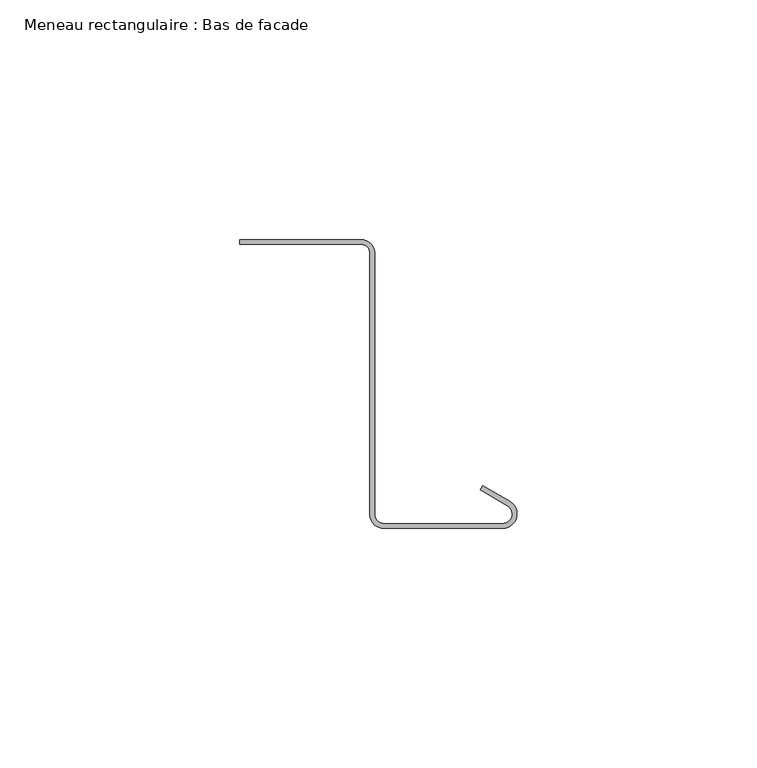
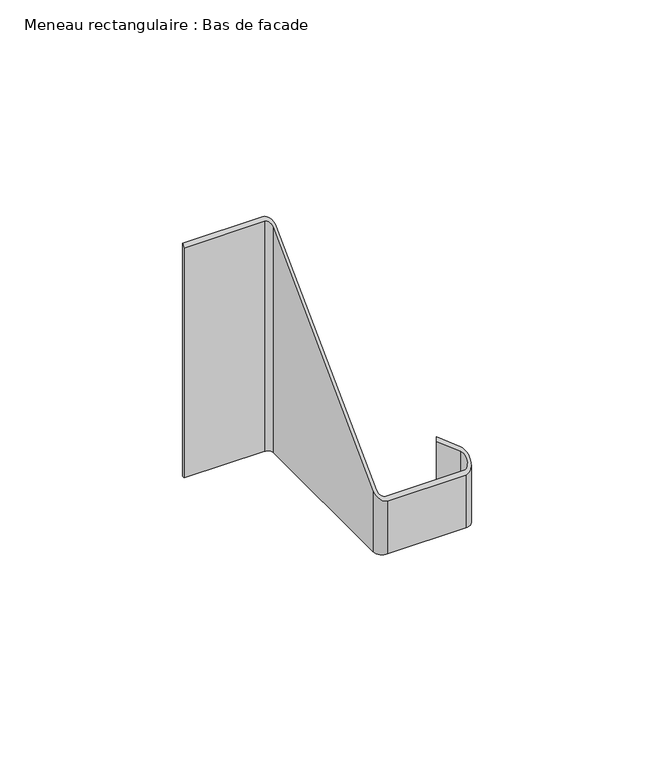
"""IFC4 building model written with IfcOpenShell, lengths in millimetres: member geometry, Meneau rectangulaire : Bas de facade."""

from ifc_helpers import new_model, si_unit, frame, origin, place, context, project, spatial, polyline, circle_curve, ellipse_curve, source, transform, mapped, element, save
from ifc_brep_helpers import plane_surface, cylinder_surface, revolved_surface, advanced_brep


def meneau_rectangulaire_bas_de_facade_97d3a993(model_context):
    return source(origin(), model_context, "Body", "AdvancedBrep", [
        advanced_brep(
        [(-32.4584179, 2.9588923, -74.86437), (-29.7143802, 0.3898824, -74.86437), (-29.7143802, -54.5495817, -74.86437), (-27.735368, -56.2605998, -74.86437), (-3.0, -56.2605998, -74.86437), (-2.0, -52.528549, -74.86437), (-7.6638061, -49.258549, -74.86437), (-7.1638061, -48.3925235, -74.86437), (-1.5, -51.6625235, -74.86437), (-3.0, -57.2605998, -74.86437), (-27.735368, -57.2605998, -74.86437), (-30.7239521, -54.522067, -74.86437), (-30.7239521, 0.4415475, -74.86437), (-32.4584179, 1.9588923, -74.86437), (-57.8548383, 1.9588923, -74.86437), (-57.8548383, 2.9588923, -74.86437), (-57.8548383, 2.9588923, 2.9588923), (-32.4584179, 2.9588923, 2.9588923), (-57.8548383, 1.9588923, 1.9588923), (-32.4584179, 1.9588923, 1.9588923), (-30.7239521, 0.4415475, 0.4415475), (-30.7239521, -54.522067, -54.522067), (-27.735368, -57.2605998, -57.2605998), (-3.0, -57.2605998, -57.2605998), (-1.5, -51.6625235, -51.6625235), (-7.1638061, -48.3925235, -48.3925235), (-7.6638061, -49.258549, -49.258549), (-2.0, -52.528549, -52.528549), (-3.0, -56.2605998, -56.2605998), (-27.735368, -56.2605998, -56.2605998), (-29.7143802, -54.5495817, -54.5495817), (-29.7143802, 0.3898824, 0.3898824)],
        [
            (0, 1, circle_curve(frame((-32.4584179, 0.2088923, -74.86437), z_axis=(0.0, 0.0, -1.0), x_axis=(0.0, 1.0, 0.0)), 2.75)),
            (1, 2),
            (2, 3, circle_curve(frame((-27.735368, -54.2605998, -74.86437), z_axis=(0.0, 0.0, 1.0), x_axis=(-0.9961946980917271, -0.08715574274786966, 0.0)), 2.0)),
            (3, 4),
            (4, 5, circle_curve(frame((-3.0, -54.2605998, -74.86437), z_axis=(0.0, 0.0, 1.0), x_axis=(0.0, -1.0, 0.0)), 2.0)),
            (5, 6),
            (6, 7),
            (7, 8),
            (8, 9, circle_curve(frame((-3.0, -54.2605998, -74.86437), z_axis=(0.0, 0.0, -1.0), x_axis=(0.0, -1.0, 0.0)), 3.0)),
            (9, 10),
            (10, 11, circle_curve(frame((-27.735368, -54.2605998, -74.86437), z_axis=(0.0, 0.0, -1.0), x_axis=(-0.9961946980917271, -0.08715574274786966, 0.0)), 3.0)),
            (11, 12),
            (12, 13, circle_curve(frame((-32.4584179, 0.2088923, -74.86437), z_axis=(0.0, 0.0, 1.0), x_axis=(0.0, 1.0, 0.0)), 1.75)),
            (13, 14),
            (14, 15),
            (15, 0),
            (16, 17),
            (17, 0),
            (15, 16),
            (18, 16),
            (14, 18),
            (19, 18),
            (13, 19),
            (20, 19, ellipse_curve(frame((-32.4584179, 0.2088923, 0.2088923), z_axis=(0.0, -0.7071067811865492, 0.7071067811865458), x_axis=(0.0, -0.7071067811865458, -0.7071067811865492)), 2.4748737, 1.75)),
            (12, 20),
            (21, 20),
            (11, 21),
            (22, 21, ellipse_curve(frame((-27.735368, -54.2605998, -54.2605998), z_axis=(0.0, 0.7071067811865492, -0.7071067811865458), x_axis=(0.0, 0.7071067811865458, 0.7071067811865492)), 4.2426407, 3.0)),
            (10, 22),
            (23, 22),
            (9, 23),
            (24, 23, ellipse_curve(frame((-3.0, -54.2605998, -54.2605998), z_axis=(0.0, 0.7071067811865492, -0.7071067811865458), x_axis=(0.0, 0.7071067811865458, 0.7071067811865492)), 4.2426407, 3.0)),
            (8, 24),
            (25, 24),
            (7, 25),
            (26, 25),
            (6, 26),
            (27, 26),
            (5, 27),
            (28, 27, ellipse_curve(frame((-3.0, -54.2605998, -54.2605998), z_axis=(0.0, -0.7071067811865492, 0.7071067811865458), x_axis=(0.0, -0.7071067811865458, -0.7071067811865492)), 2.8284271, 2.0)),
            (4, 28),
            (29, 28),
            (3, 29),
            (30, 29, ellipse_curve(frame((-27.735368, -54.2605998, -54.2605998), z_axis=(0.0, -0.7071067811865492, 0.7071067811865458), x_axis=(0.0, -0.7071067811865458, -0.7071067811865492)), 2.8284271, 2.0)),
            (2, 30),
            (31, 30),
            (1, 31),
            (17, 31, ellipse_curve(frame((-32.4584179, 0.2088923, 0.2088923), z_axis=(0.0, 0.7071067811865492, -0.7071067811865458), x_axis=(0.0, 0.7071067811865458, 0.7071067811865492)), 3.8890873, 2.75)),
        ],
        [
            plane_surface(frame((0.0, -63.8351035, -74.86437), z_axis=(0.0, 0.0, -1.0), x_axis=(-1.0, 0.0, 0.0))),
            plane_surface(frame((-32.4584179, 2.9588923, 0.0), z_axis=(0.0, 1.0, 0.0), x_axis=(0.0, 0.0, -1.0))),
            plane_surface(frame((-57.8548383, 2.9588923, 0.0), z_axis=(-1.0, 0.0, 0.0), x_axis=(0.0, 0.0, -1.0))),
            plane_surface(frame((-57.8548383, 1.9588923, 0.0), z_axis=(0.0, -1.0, 0.0), x_axis=(0.0, 0.0, -1.0))),
            revolved_surface(polyline([(-32.4584179, 1.9588923, -74.86437), (-32.4584179, 1.9588923, 1.9588923)]), (-32.4584179, 0.2088923, 0.0), (0.0, 0.0, -1.0)),
            plane_surface(frame((-30.7239521, 0.4415475, 0.0), z_axis=(-1.0, 0.0, 0.0), x_axis=(0.0, 0.0, -1.0))),
            cylinder_surface(frame((-27.735368, -54.2605998, 0.0), z_axis=(0.0, 0.0, 1.0000000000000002), x_axis=(-0.9961946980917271, -0.08715574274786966, 0.0)), 3.0),
            plane_surface(frame((-27.735368, -57.2605998, 0.0), z_axis=(0.0, -1.0, 0.0), x_axis=(0.0, 0.0, -1.0))),
            cylinder_surface(frame((-3.0, -54.2605998, 0.0), z_axis=(0.0, 0.0, 1.0), x_axis=(0.0, -1.0, 0.0)), 3.0),
            plane_surface(frame((-1.5, -51.6625235, 0.0), z_axis=(0.5000000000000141, 0.8660254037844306, 0.0), x_axis=(0.0, 0.0, -1.0))),
            plane_surface(frame((-7.1638061, -48.3925235, 0.0), z_axis=(-0.8660254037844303, 0.5000000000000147, 0.0), x_axis=(0.0, 0.0, -1.0))),
            plane_surface(frame((-7.6638061, -49.258549, 0.0), z_axis=(-0.500000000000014, -0.8660254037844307, 0.0), x_axis=(0.0, 0.0, -1.0))),
            revolved_surface(polyline([(-3.0, -56.2605998, -74.86437), (-3.0, -56.2605998, -52.260599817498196)]), (-3.0, -54.2605998, 0.0), (0.0, 0.0, -1.0)),
            plane_surface(frame((-3.0, -56.2605998, 0.0), z_axis=(0.0, 1.0, 0.0), x_axis=(0.0, 0.0, -1.0))),
            revolved_surface(polyline([(-29.727757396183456, -54.434911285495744, -74.86437000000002), (-29.727757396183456, -54.434911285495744, -52.260599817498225)]), (-27.735368, -54.2605998, 0.0), (0.0, 0.0, -1.0000000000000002)),
            plane_surface(frame((-29.7143802, -54.5495817, 0.0), z_axis=(1.0, 0.0, 0.0), x_axis=(0.0, 0.0, -1.0))),
            cylinder_surface(frame((-32.4584179, 0.2088923, 0.0), z_axis=(0.0, 0.0, 1.0), x_axis=(0.0, 1.0, 0.0)), 2.75),
            plane_surface(frame((304.8, 0.0, 0.0), z_axis=(0.0, -0.7071067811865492, 0.7071067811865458), x_axis=(0.0, -0.7071067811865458, -0.7071067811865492))),
        ],
        [
            (0, [[1, 2, 3, 4, 5, 6, 7, 8, 9, 10, 11, 12, 13, 14, 15, 16]]),
            (1, [[17, 18, -16, 19]]),
            (2, [[20, -19, -15, 21]]),
            (3, [[22, -21, -14, 23]]),
            (4, [[24, -23, -13, 25]]),
            (5, [[26, -25, -12, 27]]),
            (6, [[28, -27, -11, 29]]),
            (7, [[30, -29, -10, 31]]),
            (8, [[32, -31, -9, 33]]),
            (9, [[34, -33, -8, 35]]),
            (10, [[36, -35, -7, 37]]),
            (11, [[38, -37, -6, 39]]),
            (12, [[40, -39, -5, 41]]),
            (13, [[42, -41, -4, 43]]),
            (14, [[44, -43, -3, 45]]),
            (15, [[46, -45, -2, 47]]),
            (16, [[48, -47, -1, -18]]),
            (17, [[-17, -20, -22, -24, -26, -28, -30, -32, -34, -36, -38, -40, -42, -44, -46, -48]]),
        ],
    ),
    ])


if __name__ == "__main__":
    model = new_model("IFC4")
    model_context = context("Model", 3, world=origin())
    ifc_project = project(units=[si_unit("LENGTHUNIT", "METRE", prefix="MILLI")], contexts=[model_context])
    site = spatial("IfcSite", under=ifc_project)
    building = spatial("IfcBuilding", under=site)
    placement = place(None, origin())
    meneau_rectangulaire_bas_de_facade_shape = meneau_rectangulaire_bas_de_facade_97d3a993(model_context)
    element("IfcMember", 1, ObjectType="Meneau rectangulaire : Bas de facade", at=placement, inside=building, context=model_context, shape_type="MappedRepresentation", body=[
        mapped(meneau_rectangulaire_bas_de_facade_shape, transform((0.0, 0.0, 0.0), x_axis=(1.0, 0.0, 0.0), y_axis=(0.0, 1.0, 0.0), z_axis=(0.0, 0.0, 1.0))),
    ])
    save(model, "model.ifc")
